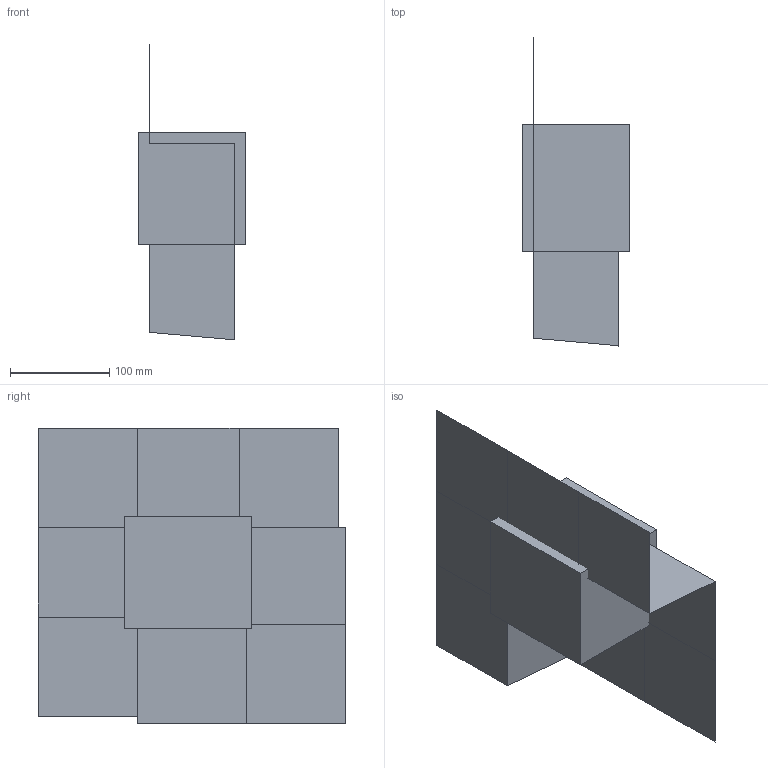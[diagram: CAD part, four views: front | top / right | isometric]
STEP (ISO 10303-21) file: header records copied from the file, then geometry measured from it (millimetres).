
FILE_DESCRIPTION(('CATIA V5 STEP Exchange'),'2;1');
FILE_NAME('C:\_Andres\UNIVERSIDAD\IQS\ASIGNATURAS\DAO\EXF\EXF-15161c\1original\Perelló_Ibarra_Ej02-moldes_v18.stp','2016-03-04T15:45:40+00:00',('none'),('none'),'CATIA Version 5 Release 20 SP 1 (IN-10)','CATIA V5 STEP AP203','none');
FILE_SCHEMA(('CONFIG_CONTROL_DESIGN'));
Length unit declared in the file: millimetre
Products named in the file (1): Perelló_Ibarra_Ej02-moldes_v18
Bounding box: 108 x 309.96 x 297.96 mm (x, y, z)
Volume: 3309977 mm3; surface area: 368438.8 mm2
Topology: 3 solids, 7 shells, 45 faces, 118 edges, 83 vertices
Faces by surface type: plane 41, cylinder 4
Entity records: 1101 total; most frequent: ORIENTED_EDGE 198, CARTESIAN_POINT 179, DIRECTION 147, EDGE_CURVE 83, VECTOR 73, LINE 73, VERTEX_POINT 56, EDGE_LOOP 49
